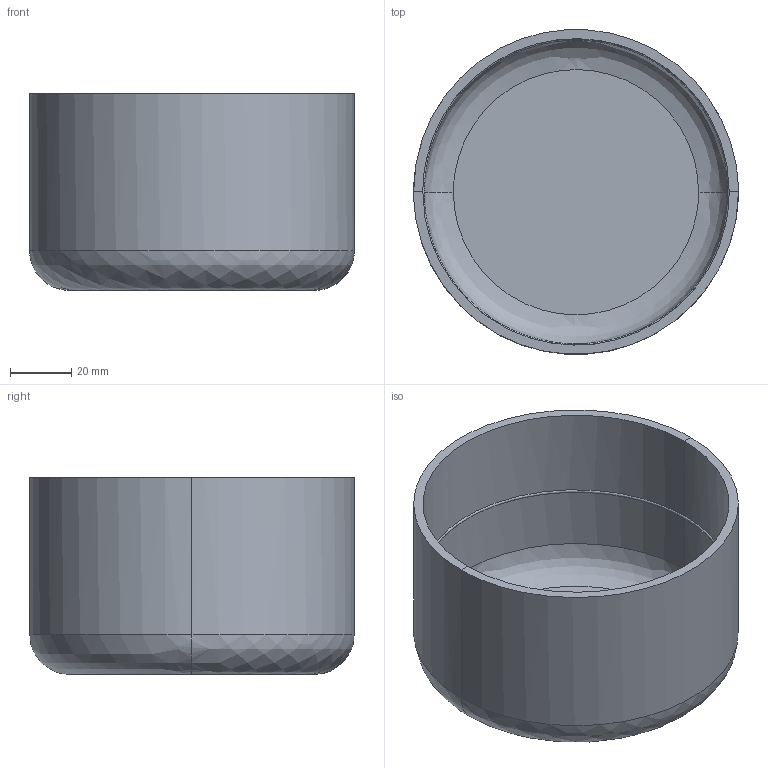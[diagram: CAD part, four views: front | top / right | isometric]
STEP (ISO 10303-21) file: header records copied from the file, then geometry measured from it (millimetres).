
FILE_DESCRIPTION(/* description */ (''),/* implementation_level */ '2;1');
FILE_NAME(/* name */ 'No Handle - 2 Cups',/* time_stamp */ '2020-01-31T12:03:32-08:00',/* author */ (''),/* organization */ (''),/* preprocessor_version */ 'ST-DEVELOPER v16.5',/* originating_system */ '',/* authorisation */ '');
FILE_SCHEMA (('AUTOMOTIVE_DESIGN'));
Length unit declared in the file: centimetre
Products named in the file (1): Document
Bounding box: 106 x 105.81 x 64.24 mm (x, y, z)
Volume: 81766.9 mm3; surface area: 55180.5 mm2
Topology: 1 solids, 1 shells, 15 faces, 29 edges, 16 vertices
Faces by surface type: bspline 13, plane 2
Entity records: 957 total; most frequent: CARTESIAN_POINT 776, ORIENTED_EDGE 58, EDGE_CURVE 29, VERTEX_POINT 16, ADVANCED_FACE 15, FACE_OUTER_BOUND 15, EDGE_LOOP 15, DIRECTION 6
